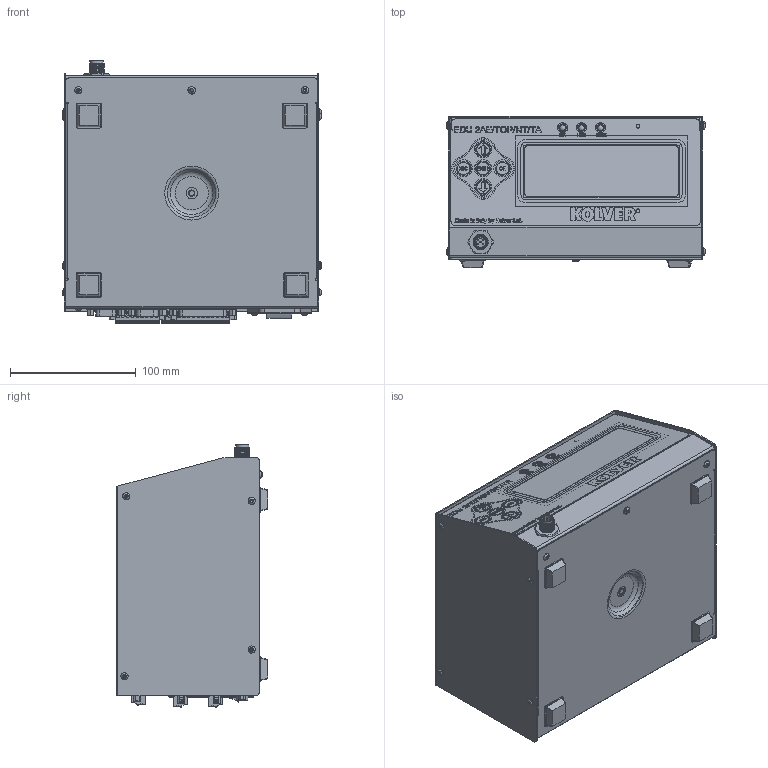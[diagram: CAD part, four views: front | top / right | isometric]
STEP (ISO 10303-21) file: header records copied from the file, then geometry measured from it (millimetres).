
FILE_DESCRIPTION (( 'STEP AP214' ), '1' );
FILE_NAME ('EDU2AE-TOP-NT-TA.STEP', '2024-10-03T13:57:05', ( '' ), ( '' ), 'SwSTEP 2.0', 'SolidWorks 2024', '' );
FILE_SCHEMA (( 'AUTOMOTIVE_DESIGN' ));
Length unit declared in the file: millimetre
Products named in the file (1): EDU2AE-TOP-NT-TA
Bounding box: 205.81 x 119.89 x 208.2 mm (x, y, z)
Surface area: 324267.8 mm2 (no closed solid volume)
Topology: 0 solids, 239 shells, 2276 faces, 10777 edges, 8321 vertices
Faces by surface type: plane 1129, cylinder 771, bspline 180, cone 115, torus 46, sphere 35
Full cylindrical faces by diameter (mm): 0.8 x3, 1 x46, 1.6 x1, 2.9 x44, 3 x12, 3.2 x1, 3.4 x2, 3.5 x6, 3.9 x8, 5 x4, 5.7 x17, 5.85 x3, 6 x4, 8 x3, 8.3 x1, 9 x1, 9.4 x1, 9.5 x1, 10 x1, 10.5 x1, 11 x5, 12 x4, 14 x5, 42 x1
Entity records: 146831 total; most frequent: CARTESIAN_POINT 42359, DIRECTION 15077, ORIENTED_EDGE 14371, EDGE_CURVE 10369, VERTEX_POINT 8224, VECTOR 6111, LINE 6111, AXIS2_PLACEMENT_3D 4483
